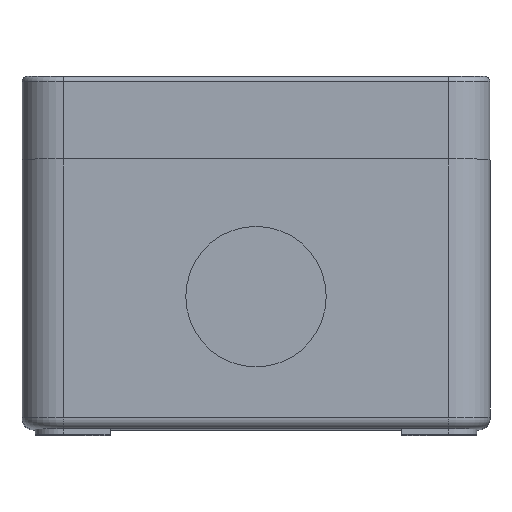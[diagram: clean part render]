
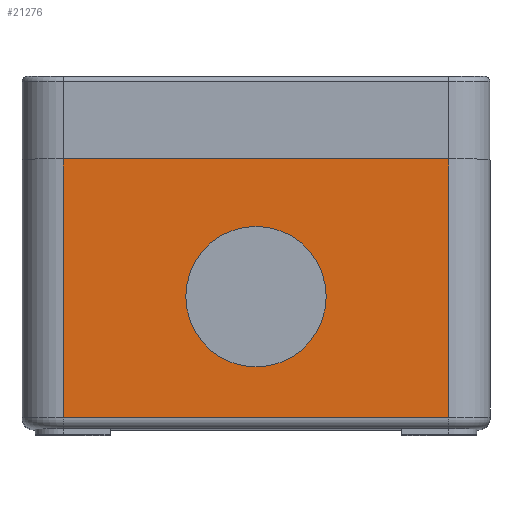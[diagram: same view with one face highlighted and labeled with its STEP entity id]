
A CAD part, top view. The second image highlights one B-rep face of the part: STEP entity #21276.
In plain terms, the highlighted planar face has unit normal (0, 0, 1).
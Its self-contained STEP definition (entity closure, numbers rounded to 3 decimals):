
#705 = AXIS2_PLACEMENT_3D ( 'NONE', #21710, #9821, #23693 ) ;
#1114 = EDGE_CURVE ( 'NONE', #2928, #5851, #10410, .T. ) ;
#1775 = DIRECTION ( 'NONE',  ( 0., 0., 1. ) ) ;
#2181 = FACE_BOUND ( 'NONE', #6979, .T. ) ;
#2307 = DIRECTION ( 'NONE',  ( 0., 0., 1. ) ) ;
#2928 = VERTEX_POINT ( 'NONE', #24875 ) ;
#3643 = CARTESIAN_POINT ( 'NONE',  ( -12.75, -25., 70. ) ) ;
#4525 = CARTESIAN_POINT ( 'NONE',  ( 35., -47., 70. ) ) ;
#4565 = CARTESIAN_POINT ( 'NONE',  ( -35., -47., 70. ) ) ;
#5126 = VECTOR ( 'NONE', #5159, 1000. ) ;
#5159 = DIRECTION ( 'NONE',  ( 1., 0., 0. ) ) ;
#5305 = VERTEX_POINT ( 'NONE', #23300 ) ;
#5392 = EDGE_CURVE ( 'NONE', #12936, #5305, #14750, .T. ) ;
#5851 = VERTEX_POINT ( 'NONE', #13495 ) ;
#6165 = VERTEX_POINT ( 'NONE', #4565 ) ;
#6329 = CARTESIAN_POINT ( 'NONE',  ( 35., -49., 70. ) ) ;
#6489 = DIRECTION ( 'NONE',  ( 0., 1., 0. ) ) ;
#6979 = EDGE_LOOP ( 'NONE', ( #17911, #20499 ) ) ;
#7638 = ORIENTED_EDGE ( 'NONE', *, *, #16751, .F. ) ;
#8115 = PLANE ( 'NONE',  #14045 ) ;
#8318 = DIRECTION ( 'NONE',  ( 0., 1., 0. ) ) ;
#8591 = VECTOR ( 'NONE', #6489, 1000. ) ;
#9025 = AXIS2_PLACEMENT_3D ( 'NONE', #13653, #1775, #15664 ) ;
#9201 = ORIENTED_EDGE ( 'NONE', *, *, #1114, .F. ) ;
#9333 = ORIENTED_EDGE ( 'NONE', *, *, #18755, .T. ) ;
#9760 = CIRCLE ( 'NONE', #705, 12.75 ) ;
#9821 = DIRECTION ( 'NONE',  ( 0., 0., 1. ) ) ;
#10228 = VECTOR ( 'NONE', #18400, 1000. ) ;
#10410 = LINE ( 'NONE', #17058, #5126 ) ;
#10964 = VERTEX_POINT ( 'NONE', #11569 ) ;
#11569 = CARTESIAN_POINT ( 'NONE',  ( 35., -47., 70. ) ) ;
#11878 = ORIENTED_EDGE ( 'NONE', *, *, #20678, .T. ) ;
#12472 = EDGE_LOOP ( 'NONE', ( #7638, #9333, #11878, #9201 ) ) ;
#12936 = VERTEX_POINT ( 'NONE', #3643 ) ;
#13495 = CARTESIAN_POINT ( 'NONE',  ( 35., 0., 70. ) ) ;
#13653 = CARTESIAN_POINT ( 'NONE',  ( 0., -25., 70. ) ) ;
#14045 = AXIS2_PLACEMENT_3D ( 'NONE', #14176, #2307, #16175 ) ;
#14176 = CARTESIAN_POINT ( 'NONE',  ( -35., -49., 70. ) ) ;
#14750 = CIRCLE ( 'NONE', #9025, 12.75 ) ;
#15268 = LINE ( 'NONE', #6329, #25202 ) ;
#15664 = DIRECTION ( 'NONE',  ( 1., 0., 0. ) ) ;
#16175 = DIRECTION ( 'NONE',  ( 1., 0., 0. ) ) ;
#16751 = EDGE_CURVE ( 'NONE', #6165, #2928, #19115, .T. ) ;
#17058 = CARTESIAN_POINT ( 'NONE',  ( -35., 0., 70. ) ) ;
#17387 = FACE_OUTER_BOUND ( 'NONE', #12472, .T. ) ;
#17911 = ORIENTED_EDGE ( 'NONE', *, *, #20051, .F. ) ;
#18356 = CARTESIAN_POINT ( 'NONE',  ( -35., -49., 70. ) ) ;
#18400 = DIRECTION ( 'NONE',  ( 1., 0., 0. ) ) ;
#18755 = EDGE_CURVE ( 'NONE', #6165, #10964, #25414, .T. ) ;
#19115 = LINE ( 'NONE', #18356, #8591 ) ;
#20051 = EDGE_CURVE ( 'NONE', #5305, #12936, #9760, .T. ) ;
#20499 = ORIENTED_EDGE ( 'NONE', *, *, #5392, .F. ) ;
#20678 = EDGE_CURVE ( 'NONE', #10964, #5851, #15268, .T. ) ;
#21276 = ADVANCED_FACE ( 'NONE', ( #2181, #17387 ), #8115, .T. ) ;
#21710 = CARTESIAN_POINT ( 'NONE',  ( 0., -25., 70. ) ) ;
#23300 = CARTESIAN_POINT ( 'NONE',  ( 12.75, -25., 70. ) ) ;
#23693 = DIRECTION ( 'NONE',  ( 1., 0., 0. ) ) ;
#24875 = CARTESIAN_POINT ( 'NONE',  ( -35., 0., 70. ) ) ;
#25202 = VECTOR ( 'NONE', #8318, 1000. ) ;
#25414 = LINE ( 'NONE', #4525, #10228 ) ;
